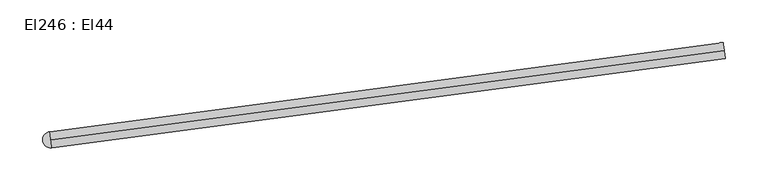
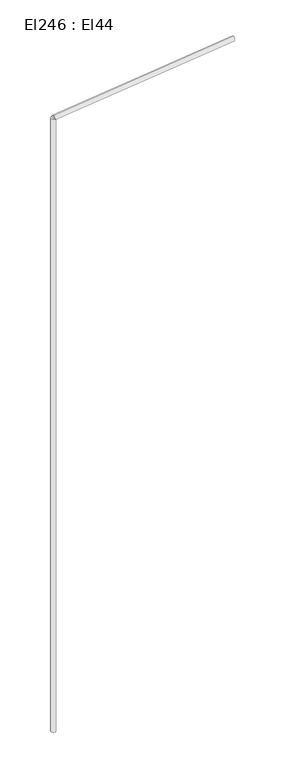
"""IFC4 building model written with IfcOpenShell, lengths in millimetres: cable carrier segment geometry, El246 : El44."""

from ifc_helpers import new_model, si_unit, point, frame, frame_2d, origin, place, context, project, spatial, circle_curve, trimmed, segment, composite_curve, outline, extrude, source, transform, mapped, element, save


def el246_el44_65ff09b4(model_context):
    return source(origin(), model_context, "Body", "SweptSolid", [
        extrude(outline(composite_curve([segment(trimmed(circle_curve(frame_2d((0.0, -9.5)), 9.5), [point((0.0, -19.0))], [point((0.0, 0.0))], False, "CARTESIAN"), True, "CONTINUOUS"), segment(trimmed(circle_curve(frame_2d((0.0, -9.5)), 9.5), [point((0.0, 0.0))], [point((0.0, -19.0))], False, "CARTESIAN"), True, "CONTINUOUS")], self_intersect=False)), frame((8564.4366511, 7883.1747745, 4459.5), z_axis=(0.9913143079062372, 0.13151404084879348, 0.0), x_axis=(-0.13151404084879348, 0.9913143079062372, 0.0)), (0.0, 0.0, 1.0), 795.031),
        extrude(outline(composite_curve([segment(trimmed(circle_curve(frame_2d((8564.4366511, 7883.1747745)), 9.5), [point((8554.9366511, 7883.1747745))], [point((8573.9366511, 7883.1747745))], False, "CARTESIAN"), True, "CONTINUOUS"), segment(trimmed(circle_curve(frame_2d((8564.4366511, 7883.1747745)), 9.5), [point((8573.9366511, 7883.1747745))], [point((8554.9366511, 7883.1747745))], False, "CARTESIAN"), True, "CONTINUOUS")], self_intersect=False)), frame((0.0, 0.0, 1830.0), z_axis=(0.0, 0.0, 1.0), x_axis=(1.0, 0.0, 0.0)), (0.0, 0.0, 1.0), 2620.0),
    ])


if __name__ == "__main__":
    model = new_model("IFC4")
    model_context = context("Model", 3, world=origin())
    ifc_project = project(units=[si_unit("LENGTHUNIT", "METRE", prefix="MILLI")], contexts=[model_context])
    site = spatial("IfcSite", under=ifc_project)
    building = spatial("IfcBuilding", under=site)
    placement = place(None, origin())
    el246_el44_shape = el246_el44_65ff09b4(model_context)
    element("IfcCableCarrierSegment", 1, ObjectType="El246 : El44", at=placement, inside=building, context=model_context, shape_type="MappedRepresentation", body=[
        mapped(el246_el44_shape, transform((0.0, 0.0, 0.0), x_axis=(1.0, 0.0, 0.0), y_axis=(0.0, 1.0, 0.0), z_axis=(0.0, 0.0, 1.0))),
    ])
    save(model, "model.ifc")
